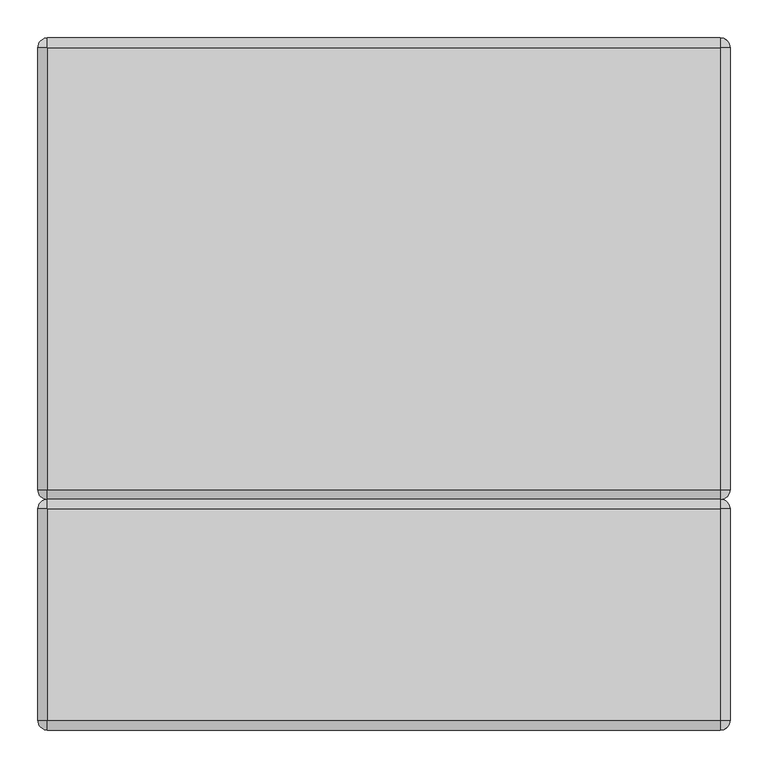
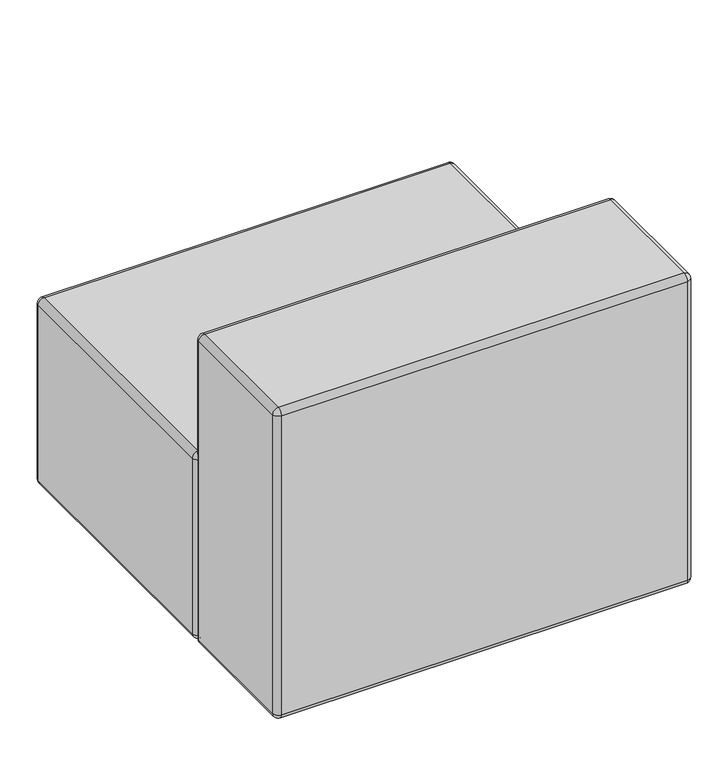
"""IFC4 building model written with IfcOpenShell, lengths in millimetres: furniture geometry, KFI Studios - Conversa : 24”x36” Seat with Back."""

from ifc_helpers import new_model, si_unit, point, frame, origin, place, context, project, spatial, polyline, circle_curve, ellipse_curve, trimmed, source, transform, mapped, element, save
from ifc_brep_helpers import plane_surface, cylinder_surface, revolved_surface, advanced_brep


def furniture_0edc51ff(model_context):
    return source(origin(), model_context, "Body", "AdvancedBrep", [
        advanced_brep(
        [(373.3895895, -517.525, 25.4), (356.8604105, -517.525, 25.4), (365.125, -517.525, 25.4), (373.3895895, -517.525, 14.2843611), (356.8604105, -517.525, 14.2843611), (371.7876354, -517.525, 14.2843611), (358.4623646, -517.525, 14.2843611), (371.7876354, -517.525, 12.7064551), (358.4623646, -517.525, 12.7064551), (373.3890671, -517.525, 12.7064551), (356.8609329, -517.525, 12.7064551), (382.5741215, -517.525, 3.1950529), (347.6758785, -517.525, 3.1950529), (382.5741215, -517.525, 0.0), (347.6758785, -517.525, 0.0), (365.125, -517.525, 0.0)],
        [
            (0, 1, circle_curve(frame((365.125, -517.525, 25.4), z_axis=(0.0, 0.0, 1.0), x_axis=(-1.0, 0.0, 0.0)), 8.2645895)),
            (1, 2),
            (2, 0),
            (1, 0, circle_curve(frame((365.125, -517.525, 25.4), z_axis=(0.0, 0.0, 1.0), x_axis=(-1.0, 0.0, 0.0)), 8.2645895)),
            (3, 4, circle_curve(frame((365.125, -517.525, 14.2843611), z_axis=(0.0, 0.0, 1.0), x_axis=(-1.0, 0.0, 0.0)), 8.2645895)),
            (4, 1),
            (0, 3),
            (4, 3, circle_curve(frame((365.125, -517.525, 14.2843611), z_axis=(0.0, 0.0, 1.0), x_axis=(-1.0, 0.0, 0.0)), 8.2645895)),
            (5, 6, circle_curve(frame((365.125, -517.525, 14.2843611), z_axis=(0.0, 0.0, 1.0), x_axis=(-1.0, 0.0, 0.0)), 6.6626354)),
            (6, 4),
            (3, 5),
            (6, 5, circle_curve(frame((365.125, -517.525, 14.2843611), z_axis=(0.0, 0.0, 1.0), x_axis=(-1.0, 0.0, 0.0)), 6.6626354)),
            (7, 8, circle_curve(frame((365.125, -517.525, 12.7064551), z_axis=(0.0, 0.0, 1.0), x_axis=(-1.0, 0.0, 0.0)), 6.6626354)),
            (8, 6),
            (5, 7),
            (8, 7, circle_curve(frame((365.125, -517.525, 12.7064551), z_axis=(0.0, 0.0, 1.0), x_axis=(-1.0, 0.0, 0.0)), 6.6626354)),
            (9, 10, circle_curve(frame((365.125, -517.525, 12.7064551), z_axis=(0.0, 0.0, 1.0), x_axis=(-1.0, 0.0, 0.0)), 8.2640671)),
            (10, 8),
            (7, 9),
            (10, 9, circle_curve(frame((365.125, -517.525, 12.7064551), z_axis=(0.0, 0.0, 1.0), x_axis=(-1.0, 0.0, 0.0)), 8.2640671)),
            (11, 12, circle_curve(frame((365.125, -517.525, 3.1950529), z_axis=(0.0, 0.0, 1.0), x_axis=(-1.0, 0.0, 0.0)), 17.4491215)),
            (12, 10),
            (9, 11),
            (12, 11, circle_curve(frame((365.125, -517.525, 3.1950529), z_axis=(0.0, 0.0, 1.0), x_axis=(-1.0, 0.0, 0.0)), 17.4491215)),
            (13, 14, circle_curve(frame((365.125, -517.525, 0.0), z_axis=(0.0, 0.0, 1.0), x_axis=(-1.0, 0.0, 0.0)), 17.4491215)),
            (14, 12),
            (11, 13),
            (14, 13, circle_curve(frame((365.125, -517.525, 0.0), z_axis=(0.0, 0.0, 1.0), x_axis=(-1.0, 0.0, 0.0)), 17.4491215)),
            (15, 14),
            (13, 15),
        ],
        [
            plane_surface(frame((365.125, -517.525, 25.4), z_axis=(0.0, 0.0, 1.0), x_axis=(-1.0, 0.0, 0.0))),
            cylinder_surface(frame((365.125, -517.525, 33.820929), z_axis=(0.0, 0.0, -1.0), x_axis=(-1.0, 0.0, 0.0)), 8.2645895),
            plane_surface(frame((365.125, -517.525, 14.2843611), z_axis=(0.0, 0.0, -1.0), x_axis=(-1.0, 0.0, 0.0))),
            cylinder_surface(frame((365.125, -517.525, 33.820929), z_axis=(0.0, 0.0, -1.0), x_axis=(-1.0, 0.0, 0.0)), 6.6626354),
            plane_surface(frame((365.125, -517.525, 12.7064551), z_axis=(0.0, 0.0, 1.0), x_axis=(-1.0, 0.0, 0.0))),
            revolved_surface(polyline([(356.8609329, -517.525, 12.7064551), (347.6758785, -517.525, 3.1950529)]), (365.125, -517.525, 33.820929), (0.0, 0.0, -1.0)),
            cylinder_surface(frame((365.125, -517.525, 33.820929), z_axis=(0.0, 0.0, -1.0), x_axis=(-1.0, 0.0, 0.0)), 17.4491215),
            plane_surface(frame((365.125, -517.525, 0.0), z_axis=(0.0, 0.0, -1.0), x_axis=(-1.0, 0.0, 0.0))),
        ],
        [
            (0, [[1, 2, 3]]),
            (0, [[4, -3, -2]]),
            (1, [[5, 6, -1, 7]]),
            (1, [[8, -7, -4, -6]]),
            (2, [[9, 10, -5, 11]]),
            (2, [[12, -11, -8, -10]]),
            (3, [[13, 14, -9, 15]]),
            (3, [[16, -15, -12, -14]]),
            (4, [[17, 18, -13, 19]]),
            (4, [[20, -19, -16, -18]]),
            (5, [[21, 22, -17, 23]]),
            (5, [[24, -23, -20, -22]]),
            (6, [[25, 26, -21, 27]]),
            (6, [[28, -27, -24, -26]]),
            (7, [[29, -25, 30]]),
            (7, [[-30, -28, -29]]),
        ],
    ),
        advanced_brep(
        [(-356.8604105, -517.525, 25.4), (-373.3895895, -517.525, 25.4), (-365.125, -517.525, 25.4), (-356.8604105, -517.525, 14.2843611), (-373.3895895, -517.525, 14.2843611), (-358.4623646, -517.525, 14.2843611), (-371.7876354, -517.525, 14.2843611), (-358.4623646, -517.525, 12.7064551), (-371.7876354, -517.525, 12.7064551), (-356.8609329, -517.525, 12.7064551), (-373.3890671, -517.525, 12.7064551), (-347.6758785, -517.525, 3.1950529), (-382.5741215, -517.525, 3.1950529), (-347.6758785, -517.525, 0.0), (-382.5741215, -517.525, 0.0), (-365.125, -517.525, 0.0)],
        [
            (0, 1, circle_curve(frame((-365.125, -517.525, 25.4), z_axis=(0.0, 0.0, 1.0), x_axis=(-1.0, 0.0, 0.0)), 8.2645895)),
            (1, 2),
            (2, 0),
            (1, 0, circle_curve(frame((-365.125, -517.525, 25.4), z_axis=(0.0, 0.0, 1.0), x_axis=(-1.0, 0.0, 0.0)), 8.2645895)),
            (3, 4, circle_curve(frame((-365.125, -517.525, 14.2843611), z_axis=(0.0, 0.0, 1.0), x_axis=(-1.0, 0.0, 0.0)), 8.2645895)),
            (4, 1),
            (0, 3),
            (4, 3, circle_curve(frame((-365.125, -517.525, 14.2843611), z_axis=(0.0, 0.0, 1.0), x_axis=(-1.0, 0.0, 0.0)), 8.2645895)),
            (5, 6, circle_curve(frame((-365.125, -517.525, 14.2843611), z_axis=(0.0, 0.0, 1.0), x_axis=(-1.0, 0.0, 0.0)), 6.6626354)),
            (6, 4),
            (3, 5),
            (6, 5, circle_curve(frame((-365.125, -517.525, 14.2843611), z_axis=(0.0, 0.0, 1.0), x_axis=(-1.0, 0.0, 0.0)), 6.6626354)),
            (7, 8, circle_curve(frame((-365.125, -517.525, 12.7064551), z_axis=(0.0, 0.0, 1.0), x_axis=(-1.0, 0.0, 0.0)), 6.6626354)),
            (8, 6),
            (5, 7),
            (8, 7, circle_curve(frame((-365.125, -517.525, 12.7064551), z_axis=(0.0, 0.0, 1.0), x_axis=(-1.0, 0.0, 0.0)), 6.6626354)),
            (9, 10, circle_curve(frame((-365.125, -517.525, 12.7064551), z_axis=(0.0, 0.0, 1.0), x_axis=(-1.0, 0.0, 0.0)), 8.2640671)),
            (10, 8),
            (7, 9),
            (10, 9, circle_curve(frame((-365.125, -517.525, 12.7064551), z_axis=(0.0, 0.0, 1.0), x_axis=(-1.0, 0.0, 0.0)), 8.2640671)),
            (11, 12, circle_curve(frame((-365.125, -517.525, 3.1950529), z_axis=(0.0, 0.0, 1.0), x_axis=(-1.0, 0.0, 0.0)), 17.4491215)),
            (12, 10),
            (9, 11),
            (12, 11, circle_curve(frame((-365.125, -517.525, 3.1950529), z_axis=(0.0, 0.0, 1.0), x_axis=(-1.0, 0.0, 0.0)), 17.4491215)),
            (13, 14, circle_curve(frame((-365.125, -517.525, 0.0), z_axis=(0.0, 0.0, 1.0), x_axis=(-1.0, 0.0, 0.0)), 17.4491215)),
            (14, 12),
            (11, 13),
            (14, 13, circle_curve(frame((-365.125, -517.525, 0.0), z_axis=(0.0, 0.0, 1.0), x_axis=(-1.0, 0.0, 0.0)), 17.4491215)),
            (15, 14),
            (13, 15),
        ],
        [
            plane_surface(frame((-365.125, -517.525, 25.4), z_axis=(0.0, 0.0, 1.0), x_axis=(-1.0, 0.0, 0.0))),
            cylinder_surface(frame((-365.125, -517.525, 33.820929), z_axis=(0.0, 0.0, -1.0), x_axis=(-1.0, 0.0, 0.0)), 8.2645895),
            plane_surface(frame((-365.125, -517.525, 14.2843611), z_axis=(0.0, 0.0, -1.0), x_axis=(-1.0, 0.0, 0.0))),
            cylinder_surface(frame((-365.125, -517.525, 33.820929), z_axis=(0.0, 0.0, -1.0), x_axis=(-1.0, 0.0, 0.0)), 6.6626354),
            plane_surface(frame((-365.125, -517.525, 12.7064551), z_axis=(0.0, 0.0, 1.0), x_axis=(-1.0, 0.0, 0.0))),
            revolved_surface(polyline([(-373.3890671, -517.525, 12.7064551), (-382.5741215, -517.525, 3.1950529)]), (-365.125, -517.525, 33.820929), (0.0, 0.0, -1.0)),
            cylinder_surface(frame((-365.125, -517.525, 33.820929), z_axis=(0.0, 0.0, -1.0), x_axis=(-1.0, 0.0, 0.0)), 17.4491215),
            plane_surface(frame((-365.125, -517.525, 0.0), z_axis=(0.0, 0.0, -1.0), x_axis=(-1.0, 0.0, 0.0))),
        ],
        [
            (0, [[1, 2, 3]]),
            (0, [[4, -3, -2]]),
            (1, [[5, 6, -1, 7]]),
            (1, [[8, -7, -4, -6]]),
            (2, [[9, 10, -5, 11]]),
            (2, [[12, -11, -8, -10]]),
            (3, [[13, 14, -9, 15]]),
            (3, [[16, -15, -12, -14]]),
            (4, [[17, 18, -13, 19]]),
            (4, [[20, -19, -16, -18]]),
            (5, [[21, 22, -17, 23]]),
            (5, [[24, -23, -20, -22]]),
            (6, [[25, 26, -21, 27]]),
            (6, [[28, -27, -24, -26]]),
            (7, [[29, -25, 30]]),
            (7, [[-30, -28, -29]]),
        ],
    ),
        advanced_brep(
        [(-457.2, -596.9, 730.25), (-444.5, -596.9, 742.95), (-444.5, -317.5, 742.95), (-457.2, -317.5, 730.25), (-457.2, -317.5, 38.1), (-457.2, -596.9, 38.1), (-444.5, -317.5, 25.4), (-444.5, -596.9, 25.4), (-444.5, -304.8, 730.25), (444.5, -317.5, 742.95), (444.5, -304.8, 730.25), (444.5, -304.8, 38.1), (-444.5, -304.8, 38.1), (444.5, -317.5, 25.4), (444.5, -596.9, 742.95), (444.5, -596.9, 25.4), (444.5, -609.6, 730.25), (-444.5, -609.6, 730.25), (-444.5, -609.6, 38.1), (444.5, -609.6, 38.1), (457.2, -317.5, 730.25), (457.2, -596.9, 730.25), (457.2, -596.9, 38.1), (457.2, -317.5, 38.1)],
        [
            (0, 1, circle_curve(frame((-444.5, -596.9, 730.25), z_axis=(0.0, 1.0, 0.0), x_axis=(-1.0, 0.0, 0.0)), 12.7)),
            (1, 2),
            (2, 3, circle_curve(frame((-444.5, -317.5, 730.25), z_axis=(0.0, -1.0, 0.0), x_axis=(-1.0, 0.0, 0.0)), 12.7)),
            (3, 0),
            (3, 4),
            (4, 5),
            (5, 0),
            (4, 6, circle_curve(frame((-444.5, -317.5, 38.1), z_axis=(0.0, -1.0, 0.0), x_axis=(-1.0, 0.0, 0.0)), 12.7)),
            (6, 7),
            (7, 5, circle_curve(frame((-444.5, -596.9, 38.1), z_axis=(0.0, 1.0, 0.0), x_axis=(-1.0, 0.0, 0.0)), 12.7)),
            (8, 2, circle_curve(frame((-444.5, -317.5, 730.25), z_axis=(1.0, 0.0, 0.0), x_axis=(0.0, -1.0, 0.0)), 12.7)),
            (2, 9),
            (9, 10, circle_curve(frame((444.5, -317.5, 730.25), z_axis=(-1.0, 0.0, 0.0), x_axis=(0.0, -1.0, 0.0)), 12.7)),
            (10, 8),
            (10, 11),
            (11, 12),
            (12, 8),
            (11, 13, circle_curve(frame((444.5, -317.5, 38.1), z_axis=(-1.0, 0.0, 0.0), x_axis=(0.0, -1.0, 0.0)), 12.7)),
            (13, 6),
            (6, 12, circle_curve(frame((-444.5, -317.5, 38.1), z_axis=(1.0, 0.0, 0.0), x_axis=(0.0, -1.0, 0.0)), 12.7)),
            (1, 14),
            (14, 9),
            (13, 15),
            (15, 7),
            (16, 14, circle_curve(frame((444.5, -596.9, 730.25), z_axis=(-1.0, 0.0, 0.0), x_axis=(0.0, -1.0, 0.0)), 12.7)),
            (1, 17, circle_curve(frame((-444.5, -596.9, 730.25), z_axis=(1.0, 0.0, 0.0), x_axis=(0.0, -1.0, 0.0)), 12.7)),
            (17, 16),
            (17, 18),
            (18, 19),
            (19, 16),
            (18, 7, circle_curve(frame((-444.5, -596.9, 38.1), z_axis=(1.0, 0.0, 0.0), x_axis=(0.0, -1.0, 0.0)), 12.7)),
            (15, 19, circle_curve(frame((444.5, -596.9, 38.1), z_axis=(-1.0, 0.0, 0.0), x_axis=(0.0, -1.0, 0.0)), 12.7)),
            (20, 9, circle_curve(frame((444.5, -317.5, 730.25), z_axis=(0.0, -1.0, 0.0), x_axis=(-1.0, 0.0, 0.0)), 12.7)),
            (14, 21, circle_curve(frame((444.5, -596.9, 730.25), z_axis=(0.0, 1.0, 0.0), x_axis=(-1.0, 0.0, 0.0)), 12.7)),
            (21, 20),
            (21, 22),
            (22, 23),
            (23, 20),
            (22, 15, circle_curve(frame((444.5, -596.9, 38.1), z_axis=(0.0, 1.0, 0.0), x_axis=(-1.0, 0.0, 0.0)), 12.7)),
            (13, 23, circle_curve(frame((444.5, -317.5, 38.1), z_axis=(0.0, -1.0, 0.0), x_axis=(-1.0, 0.0, 0.0)), 12.7)),
            (17, 0, circle_curve(frame((-444.5, -596.9, 730.25), z_axis=(0.0, 0.0, -1.0), x_axis=(-1.0, 0.0, 0.0)), 12.7)),
            (5, 18, circle_curve(frame((-444.5, -596.9, 38.1), z_axis=(0.0, 0.0, 1.0), x_axis=(-1.0, 0.0, 0.0)), 12.7)),
            (12, 4, circle_curve(frame((-444.5, -317.5, 38.1), z_axis=(0.0, 0.0, 1.0), x_axis=(-1.0, 0.0, 0.0)), 12.7)),
            (3, 8, circle_curve(frame((-444.5, -317.5, 730.25), z_axis=(0.0, 0.0, -1.0), x_axis=(-1.0, 0.0, 0.0)), 12.7)),
            (10, 20, circle_curve(frame((444.5, -317.5, 730.25), z_axis=(0.0, 0.0, -1.0), x_axis=(1.0, 0.0, 0.0)), 12.7)),
            (23, 11, circle_curve(frame((444.5, -317.5, 38.1), z_axis=(0.0, 0.0, 1.0), x_axis=(1.0, 0.0, 0.0)), 12.7)),
            (19, 22, circle_curve(frame((444.5, -596.9, 38.1), z_axis=(0.0, 0.0, 1.0), x_axis=(1.0, 0.0, 0.0)), 12.7)),
            (21, 16, circle_curve(frame((444.5, -596.9, 730.25), z_axis=(0.0, 0.0, -1.0), x_axis=(1.0, 0.0, 0.0)), 12.7)),
        ],
        [
            cylinder_surface(frame((-444.5, -317.5, 730.25), z_axis=(0.0, 1.0, 0.0), x_axis=(-1.0, 0.0, 0.0)), 12.7),
            plane_surface(frame((-457.2, -317.5, 730.25), z_axis=(-1.0, 0.0, 0.0), x_axis=(0.0, -1.0, 0.0))),
            cylinder_surface(frame((-444.5, -317.5, 38.1), z_axis=(0.0, 1.0, 0.0), x_axis=(-1.0, 0.0, 0.0)), 12.7),
            cylinder_surface(frame((-444.5, -317.5, 730.25), z_axis=(-1.0, 0.0, 0.0), x_axis=(0.0, -1.0, 0.0)), 12.7),
            plane_surface(frame((-444.5, -304.8, 38.1), z_axis=(0.0, 1.0, 0.0), x_axis=(1.0, 0.0, 0.0))),
            cylinder_surface(frame((-444.5, -317.5, 38.1), z_axis=(-1.0, 0.0, 0.0), x_axis=(0.0, -1.0, 0.0)), 12.7),
            plane_surface(frame((-444.5, -596.9, 742.95), z_axis=(0.0, 0.0, 1.0), x_axis=(-1.0, 0.0, 0.0))),
            plane_surface(frame((-444.5, -596.9, 25.4), z_axis=(0.0, 0.0, -1.0), x_axis=(1.0, 0.0, 0.0))),
            cylinder_surface(frame((-444.5, -596.9, 730.25), z_axis=(-1.0, 0.0, 0.0), x_axis=(0.0, -1.0, 0.0)), 12.7),
            plane_surface(frame((-444.5, -609.6, 730.25), z_axis=(0.0, -1.0, 0.0), x_axis=(1.0, 0.0, 0.0))),
            cylinder_surface(frame((-444.5, -596.9, 38.1), z_axis=(-1.0, 0.0, 0.0), x_axis=(0.0, -1.0, 0.0)), 12.7),
            cylinder_surface(frame((444.5, -317.5, 730.25), z_axis=(0.0, 1.0, 0.0), x_axis=(-1.0, 0.0, 0.0)), 12.7),
            plane_surface(frame((457.2, -317.5, 38.1), z_axis=(1.0, 0.0, 0.0), x_axis=(0.0, -1.0, 0.0))),
            cylinder_surface(frame((444.5, -317.5, 38.1), z_axis=(0.0, 1.0, 0.0), x_axis=(-1.0, 0.0, 0.0)), 12.7),
            cylinder_surface(frame((-444.5, -596.9, 742.95), z_axis=(0.0, 0.0, 1.0), x_axis=(-1.0, 0.0, 0.0)), 12.7),
            revolved_surface(trimmed(ellipse_curve(frame((-444.5, -596.9, 38.1), z_axis=(0.0, 1.0, 0.0), x_axis=(0.0, 0.0, 1.0)), 12.7, 12.7), [point((-444.5, -596.9, 25.4))], [point((-457.2, -596.9, 38.1))], True, "CARTESIAN"), (-444.5, -596.9, 742.95), (0.0, 0.0, 1.0)),
            revolved_surface(trimmed(ellipse_curve(frame((-444.5, -596.9, 730.25), z_axis=(0.0, 1.0, 0.0), x_axis=(0.0, 0.0, 1.0)), 12.7, 12.7), [point((-457.2, -596.9, 730.25))], [point((-444.5, -596.9, 742.95))], True, "CARTESIAN"), (-444.5, -596.9, 742.95), (0.0, 0.0, 1.0)),
            cylinder_surface(frame((-444.5, -317.5, 592.6689642), z_axis=(0.0, 0.0, -1.0), x_axis=(-1.0, 0.0, 0.0)), 12.7),
            revolved_surface(trimmed(ellipse_curve(frame((-444.5, -317.5, 730.25), z_axis=(0.0, -1.0, 0.0), x_axis=(1.0, 0.0, 0.0)), 12.7, 12.7), [point((-444.5, -317.5, 742.95))], [point((-457.2, -317.5, 730.25))], True, "CARTESIAN"), (-444.5, -317.5, 592.6689642), (0.0, 0.0, -1.0)),
            revolved_surface(trimmed(ellipse_curve(frame((-444.5, -317.5, 38.1), z_axis=(0.0, -1.0, 0.0), x_axis=(1.0, 0.0, 0.0)), 12.7, 12.7), [point((-457.2, -317.5, 38.1))], [point((-444.5, -317.5, 25.4))], True, "CARTESIAN"), (-444.5, -317.5, 592.6689642), (0.0, 0.0, -1.0)),
            cylinder_surface(frame((444.5, -317.5, 742.95), z_axis=(0.0, 0.0, 1.0), x_axis=(1.0, 0.0, 0.0)), 12.7),
            revolved_surface(trimmed(ellipse_curve(frame((444.5, -317.5, 38.1), z_axis=(0.0, -1.0, 0.0), x_axis=(1.0, 0.0, 0.0)), 12.7, 12.7), [point((444.5, -317.5, 25.4))], [point((457.2, -317.5, 38.1))], True, "CARTESIAN"), (444.5, -317.5, 742.95), (0.0, 0.0, 1.0)),
            revolved_surface(trimmed(ellipse_curve(frame((444.5, -317.5, 730.25), z_axis=(0.0, -1.0, 0.0), x_axis=(1.0, 0.0, 0.0)), 12.7, 12.7), [point((457.2, -317.5, 730.25))], [point((444.5, -317.5, 742.95))], True, "CARTESIAN"), (444.5, -317.5, 742.95), (0.0, 0.0, 1.0)),
            cylinder_surface(frame((444.5, -596.9, 592.6689642), z_axis=(0.0, 0.0, -1.0), x_axis=(1.0, 0.0, 0.0)), 12.7),
            revolved_surface(trimmed(ellipse_curve(frame((444.5, -596.9, 730.25), z_axis=(0.0, 1.0, 0.0), x_axis=(0.0, 0.0, 1.0)), 12.7, 12.7), [point((444.5, -596.9, 742.95))], [point((457.2, -596.9, 730.25))], True, "CARTESIAN"), (444.5, -596.9, 592.6689642), (0.0, 0.0, -1.0)),
            revolved_surface(trimmed(ellipse_curve(frame((444.5, -596.9, 38.1), z_axis=(0.0, 1.0, 0.0), x_axis=(0.0, 0.0, 1.0)), 12.7, 12.7), [point((457.2, -596.9, 38.1))], [point((444.5, -596.9, 25.4))], True, "CARTESIAN"), (444.5, -596.9, 592.6689642), (0.0, 0.0, -1.0)),
        ],
        [
            (0, [[1, 2, 3, 4]]),
            (1, [[5, 6, 7, -4]]),
            (2, [[8, 9, 10, -6]]),
            (3, [[11, 12, 13, 14]]),
            (4, [[15, 16, 17, -14]]),
            (5, [[18, 19, 20, -16]]),
            (6, [[21, 22, -12, -2]]),
            (7, [[-19, 23, 24, -9]]),
            (8, [[25, -21, 26, 27]]),
            (9, [[28, 29, 30, -27]]),
            (10, [[31, -24, 32, -29]]),
            (11, [[33, -22, 34, 35]]),
            (12, [[36, 37, 38, -35]]),
            (13, [[39, -23, 40, -37]]),
            (14, [[-28, 41, -7, 42]]),
            (15, [[-10, -31, -42]]),
            (16, [[-26, -1, -41]]),
            (17, [[-17, 43, -5, 44]]),
            (18, [[-3, -11, -44]]),
            (19, [[-20, -8, -43]]),
            (20, [[-15, 45, -38, 46]]),
            (21, [[-40, -18, -46]]),
            (22, [[-13, -33, -45]]),
            (23, [[-30, 47, -36, 48]]),
            (24, [[-34, -25, -48]]),
            (25, [[-32, -39, -47]]),
        ],
    ),
        advanced_brep(
        [(373.3895895, -212.725, 25.4), (356.8604105, -212.725, 25.4), (365.125, -212.725, 25.4), (373.3895895, -212.725, 14.2843611), (356.8604105, -212.725, 14.2843611), (371.7876354, -212.725, 14.2843611), (358.4623646, -212.725, 14.2843611), (371.7876354, -212.725, 12.7064551), (358.4623646, -212.725, 12.7064551), (373.3890671, -212.725, 12.7064551), (356.8609329, -212.725, 12.7064551), (382.5741215, -212.725, 3.1950529), (347.6758785, -212.725, 3.1950529), (382.5741215, -212.725, 0.0), (347.6758785, -212.725, 0.0), (365.125, -212.725, 0.0)],
        [
            (0, 1, circle_curve(frame((365.125, -212.725, 25.4), z_axis=(0.0, 0.0, 1.0), x_axis=(-1.0, 0.0, 0.0)), 8.2645895)),
            (1, 2),
            (2, 0),
            (1, 0, circle_curve(frame((365.125, -212.725, 25.4), z_axis=(0.0, 0.0, 1.0), x_axis=(-1.0, 0.0, 0.0)), 8.2645895)),
            (3, 4, circle_curve(frame((365.125, -212.725, 14.2843611), z_axis=(0.0, 0.0, 1.0), x_axis=(-1.0, 0.0, 0.0)), 8.2645895)),
            (4, 1),
            (0, 3),
            (4, 3, circle_curve(frame((365.125, -212.725, 14.2843611), z_axis=(0.0, 0.0, 1.0), x_axis=(-1.0, 0.0, 0.0)), 8.2645895)),
            (5, 6, circle_curve(frame((365.125, -212.725, 14.2843611), z_axis=(0.0, 0.0, 1.0), x_axis=(-1.0, 0.0, 0.0)), 6.6626354)),
            (6, 4),
            (3, 5),
            (6, 5, circle_curve(frame((365.125, -212.725, 14.2843611), z_axis=(0.0, 0.0, 1.0), x_axis=(-1.0, 0.0, 0.0)), 6.6626354)),
            (7, 8, circle_curve(frame((365.125, -212.725, 12.7064551), z_axis=(0.0, 0.0, 1.0), x_axis=(-1.0, 0.0, 0.0)), 6.6626354)),
            (8, 6),
            (5, 7),
            (8, 7, circle_curve(frame((365.125, -212.725, 12.7064551), z_axis=(0.0, 0.0, 1.0), x_axis=(-1.0, 0.0, 0.0)), 6.6626354)),
            (9, 10, circle_curve(frame((365.125, -212.725, 12.7064551), z_axis=(0.0, 0.0, 1.0), x_axis=(-1.0, 0.0, 0.0)), 8.2640671)),
            (10, 8),
            (7, 9),
            (10, 9, circle_curve(frame((365.125, -212.725, 12.7064551), z_axis=(0.0, 0.0, 1.0), x_axis=(-1.0, 0.0, 0.0)), 8.2640671)),
            (11, 12, circle_curve(frame((365.125, -212.725, 3.1950529), z_axis=(0.0, 0.0, 1.0), x_axis=(-1.0, 0.0, 0.0)), 17.4491215)),
            (12, 10),
            (9, 11),
            (12, 11, circle_curve(frame((365.125, -212.725, 3.1950529), z_axis=(0.0, 0.0, 1.0), x_axis=(-1.0, 0.0, 0.0)), 17.4491215)),
            (13, 14, circle_curve(frame((365.125, -212.725, 0.0), z_axis=(0.0, 0.0, 1.0), x_axis=(-1.0, 0.0, 0.0)), 17.4491215)),
            (14, 12),
            (11, 13),
            (14, 13, circle_curve(frame((365.125, -212.725, 0.0), z_axis=(0.0, 0.0, 1.0), x_axis=(-1.0, 0.0, 0.0)), 17.4491215)),
            (15, 14),
            (13, 15),
        ],
        [
            plane_surface(frame((365.125, -212.725, 25.4), z_axis=(0.0, 0.0, 1.0), x_axis=(-1.0, 0.0, 0.0))),
            cylinder_surface(frame((365.125, -212.725, 33.820929), z_axis=(0.0, 0.0, -1.0), x_axis=(-1.0, 0.0, 0.0)), 8.2645895),
            plane_surface(frame((365.125, -212.725, 14.2843611), z_axis=(0.0, 0.0, -1.0), x_axis=(-1.0, 0.0, 0.0))),
            cylinder_surface(frame((365.125, -212.725, 33.820929), z_axis=(0.0, 0.0, -1.0), x_axis=(-1.0, 0.0, 0.0)), 6.6626354),
            plane_surface(frame((365.125, -212.725, 12.7064551), z_axis=(0.0, 0.0, 1.0), x_axis=(-1.0, 0.0, 0.0))),
            revolved_surface(polyline([(356.8609329, -212.725, 12.7064551), (347.6758785, -212.725, 3.1950529)]), (365.125, -212.725, 33.820929), (0.0, 0.0, -1.0)),
            cylinder_surface(frame((365.125, -212.725, 33.820929), z_axis=(0.0, 0.0, -1.0), x_axis=(-1.0, 0.0, 0.0)), 17.4491215),
            plane_surface(frame((365.125, -212.725, 0.0), z_axis=(0.0, 0.0, -1.0), x_axis=(-1.0, 0.0, 0.0))),
        ],
        [
            (0, [[1, 2, 3]]),
            (0, [[4, -3, -2]]),
            (1, [[5, 6, -1, 7]]),
            (1, [[8, -7, -4, -6]]),
            (2, [[9, 10, -5, 11]]),
            (2, [[12, -11, -8, -10]]),
            (3, [[13, 14, -9, 15]]),
            (3, [[16, -15, -12, -14]]),
            (4, [[17, 18, -13, 19]]),
            (4, [[20, -19, -16, -18]]),
            (5, [[21, 22, -17, 23]]),
            (5, [[24, -23, -20, -22]]),
            (6, [[25, 26, -21, 27]]),
            (6, [[28, -27, -24, -26]]),
            (7, [[29, -25, 30]]),
            (7, [[-30, -28, -29]]),
        ],
    ),
        advanced_brep(
        [(-356.8604105, -212.725, 25.4), (-373.3895895, -212.725, 25.4), (-365.125, -212.725, 25.4), (-356.8604105, -212.725, 14.2843611), (-373.3895895, -212.725, 14.2843611), (-358.4623646, -212.725, 14.2843611), (-371.7876354, -212.725, 14.2843611), (-358.4623646, -212.725, 12.7064551), (-371.7876354, -212.725, 12.7064551), (-356.8609329, -212.725, 12.7064551), (-373.3890671, -212.725, 12.7064551), (-347.6758785, -212.725, 3.1950529), (-382.5741215, -212.725, 3.1950529), (-347.6758785, -212.725, 0.0), (-382.5741215, -212.725, 0.0), (-365.125, -212.725, 0.0)],
        [
            (0, 1, circle_curve(frame((-365.125, -212.725, 25.4), z_axis=(0.0, 0.0, 1.0), x_axis=(-1.0, 0.0, 0.0)), 8.2645895)),
            (1, 2),
            (2, 0),
            (1, 0, circle_curve(frame((-365.125, -212.725, 25.4), z_axis=(0.0, 0.0, 1.0), x_axis=(-1.0, 0.0, 0.0)), 8.2645895)),
            (3, 4, circle_curve(frame((-365.125, -212.725, 14.2843611), z_axis=(0.0, 0.0, 1.0), x_axis=(-1.0, 0.0, 0.0)), 8.2645895)),
            (4, 1),
            (0, 3),
            (4, 3, circle_curve(frame((-365.125, -212.725, 14.2843611), z_axis=(0.0, 0.0, 1.0), x_axis=(-1.0, 0.0, 0.0)), 8.2645895)),
            (5, 6, circle_curve(frame((-365.125, -212.725, 14.2843611), z_axis=(0.0, 0.0, 1.0), x_axis=(-1.0, 0.0, 0.0)), 6.6626354)),
            (6, 4),
            (3, 5),
            (6, 5, circle_curve(frame((-365.125, -212.725, 14.2843611), z_axis=(0.0, 0.0, 1.0), x_axis=(-1.0, 0.0, 0.0)), 6.6626354)),
            (7, 8, circle_curve(frame((-365.125, -212.725, 12.7064551), z_axis=(0.0, 0.0, 1.0), x_axis=(-1.0, 0.0, 0.0)), 6.6626354)),
            (8, 6),
            (5, 7),
            (8, 7, circle_curve(frame((-365.125, -212.725, 12.7064551), z_axis=(0.0, 0.0, 1.0), x_axis=(-1.0, 0.0, 0.0)), 6.6626354)),
            (9, 10, circle_curve(frame((-365.125, -212.725, 12.7064551), z_axis=(0.0, 0.0, 1.0), x_axis=(-1.0, 0.0, 0.0)), 8.2640671)),
            (10, 8),
            (7, 9),
            (10, 9, circle_curve(frame((-365.125, -212.725, 12.7064551), z_axis=(0.0, 0.0, 1.0), x_axis=(-1.0, 0.0, 0.0)), 8.2640671)),
            (11, 12, circle_curve(frame((-365.125, -212.725, 3.1950529), z_axis=(0.0, 0.0, 1.0), x_axis=(-1.0, 0.0, 0.0)), 17.4491215)),
            (12, 10),
            (9, 11),
            (12, 11, circle_curve(frame((-365.125, -212.725, 3.1950529), z_axis=(0.0, 0.0, 1.0), x_axis=(-1.0, 0.0, 0.0)), 17.4491215)),
            (13, 14, circle_curve(frame((-365.125, -212.725, 0.0), z_axis=(0.0, 0.0, 1.0), x_axis=(-1.0, 0.0, 0.0)), 17.4491215)),
            (14, 12),
            (11, 13),
            (14, 13, circle_curve(frame((-365.125, -212.725, 0.0), z_axis=(0.0, 0.0, 1.0), x_axis=(-1.0, 0.0, 0.0)), 17.4491215)),
            (15, 14),
            (13, 15),
        ],
        [
            plane_surface(frame((-365.125, -212.725, 25.4), z_axis=(0.0, 0.0, 1.0), x_axis=(-1.0, 0.0, 0.0))),
            cylinder_surface(frame((-365.125, -212.725, 33.820929), z_axis=(0.0, 0.0, -1.0), x_axis=(-1.0, 0.0, 0.0)), 8.2645895),
            plane_surface(frame((-365.125, -212.725, 14.2843611), z_axis=(0.0, 0.0, -1.0), x_axis=(-1.0, 0.0, 0.0))),
            cylinder_surface(frame((-365.125, -212.725, 33.820929), z_axis=(0.0, 0.0, -1.0), x_axis=(-1.0, 0.0, 0.0)), 6.6626354),
            plane_surface(frame((-365.125, -212.725, 12.7064551), z_axis=(0.0, 0.0, 1.0), x_axis=(-1.0, 0.0, 0.0))),
            revolved_surface(polyline([(-373.3890671, -212.725, 12.7064551), (-382.5741215, -212.725, 3.1950529)]), (-365.125, -212.725, 33.820929), (0.0, 0.0, -1.0)),
            cylinder_surface(frame((-365.125, -212.725, 33.820929), z_axis=(0.0, 0.0, -1.0), x_axis=(-1.0, 0.0, 0.0)), 17.4491215),
            plane_surface(frame((-365.125, -212.725, 0.0), z_axis=(0.0, 0.0, -1.0), x_axis=(-1.0, 0.0, 0.0))),
        ],
        [
            (0, [[1, 2, 3]]),
            (0, [[4, -3, -2]]),
            (1, [[5, 6, -1, 7]]),
            (1, [[8, -7, -4, -6]]),
            (2, [[9, 10, -5, 11]]),
            (2, [[12, -11, -8, -10]]),
            (3, [[13, 14, -9, 15]]),
            (3, [[16, -15, -12, -14]]),
            (4, [[17, 18, -13, 19]]),
            (4, [[20, -19, -16, -18]]),
            (5, [[21, 22, -17, 23]]),
            (5, [[24, -23, -20, -22]]),
            (6, [[25, 26, -21, 27]]),
            (6, [[28, -27, -24, -26]]),
            (7, [[29, -25, 30]]),
            (7, [[-30, -28, -29]]),
        ],
    ),
        advanced_brep(
        [(373.3895895, 212.725, 25.4), (365.125, 212.725, 25.4), (356.8604105, 212.725, 25.4), (373.3895895, 212.725, 14.2843611), (356.8604105, 212.725, 14.2843611), (371.7876354, 212.725, 14.2843611), (358.4623646, 212.725, 14.2843611), (371.7876354, 212.725, 12.7064551), (358.4623646, 212.725, 12.7064551), (373.3890671, 212.725, 12.7064551), (356.8609329, 212.725, 12.7064551), (382.5741215, 212.725, 3.1950529), (347.6758785, 212.725, 3.1950529), (382.5741215, 212.725, 0.0), (347.6758785, 212.725, 0.0), (365.125, 212.725, 0.0)],
        [
            (0, 1),
            (1, 2),
            (2, 0, circle_curve(frame((365.125, 212.725, 25.4), z_axis=(0.0, 0.0, 1.0), x_axis=(-1.0, 0.0, 0.0)), 8.2645895)),
            (0, 2, circle_curve(frame((365.125, 212.725, 25.4), z_axis=(0.0, 0.0, 1.0), x_axis=(-1.0, 0.0, 0.0)), 8.2645895)),
            (3, 0),
            (2, 4),
            (4, 3, circle_curve(frame((365.125, 212.725, 14.2843611), z_axis=(0.0, 0.0, 1.0), x_axis=(-1.0, 0.0, 0.0)), 8.2645895)),
            (3, 4, circle_curve(frame((365.125, 212.725, 14.2843611), z_axis=(0.0, 0.0, 1.0), x_axis=(-1.0, 0.0, 0.0)), 8.2645895)),
            (5, 3),
            (4, 6),
            (6, 5, circle_curve(frame((365.125, 212.725, 14.2843611), z_axis=(0.0, 0.0, 1.0), x_axis=(-1.0, 0.0, 0.0)), 6.6626354)),
            (5, 6, circle_curve(frame((365.125, 212.725, 14.2843611), z_axis=(0.0, 0.0, 1.0), x_axis=(-1.0, 0.0, 0.0)), 6.6626354)),
            (7, 5),
            (6, 8),
            (8, 7, circle_curve(frame((365.125, 212.725, 12.7064551), z_axis=(0.0, 0.0, 1.0), x_axis=(-1.0, 0.0, 0.0)), 6.6626354)),
            (7, 8, circle_curve(frame((365.125, 212.725, 12.7064551), z_axis=(0.0, 0.0, 1.0), x_axis=(-1.0, 0.0, 0.0)), 6.6626354)),
            (9, 7),
            (8, 10),
            (10, 9, circle_curve(frame((365.125, 212.725, 12.7064551), z_axis=(0.0, 0.0, 1.0), x_axis=(-1.0, 0.0, 0.0)), 8.2640671)),
            (9, 10, circle_curve(frame((365.125, 212.725, 12.7064551), z_axis=(0.0, 0.0, 1.0), x_axis=(-1.0, 0.0, 0.0)), 8.2640671)),
            (11, 9),
            (10, 12),
            (12, 11, circle_curve(frame((365.125, 212.725, 3.1950529), z_axis=(0.0, 0.0, 1.0), x_axis=(-1.0, 0.0, 0.0)), 17.4491215)),
            (11, 12, circle_curve(frame((365.125, 212.725, 3.1950529), z_axis=(0.0, 0.0, 1.0), x_axis=(-1.0, 0.0, 0.0)), 17.4491215)),
            (13, 11),
            (12, 14),
            (14, 13, circle_curve(frame((365.125, 212.725, 0.0), z_axis=(0.0, 0.0, 1.0), x_axis=(-1.0, 0.0, 0.0)), 17.4491215)),
            (13, 14, circle_curve(frame((365.125, 212.725, 0.0), z_axis=(0.0, 0.0, 1.0), x_axis=(-1.0, 0.0, 0.0)), 17.4491215)),
            (15, 13),
            (14, 15),
        ],
        [
            plane_surface(frame((365.125, 212.725, 25.4), z_axis=(0.0, 0.0, 1.0), x_axis=(-1.0, 0.0, 0.0))),
            cylinder_surface(frame((365.125, 212.725, 33.820929), z_axis=(0.0, 0.0, -1.0), x_axis=(-1.0, 0.0, 0.0)), 8.2645895),
            plane_surface(frame((365.125, 212.725, 14.2843611), z_axis=(0.0, 0.0, -1.0), x_axis=(-1.0, 0.0, 0.0))),
            cylinder_surface(frame((365.125, 212.725, 33.820929), z_axis=(0.0, 0.0, -1.0), x_axis=(-1.0, 0.0, 0.0)), 6.6626354),
            plane_surface(frame((365.125, 212.725, 12.7064551), z_axis=(0.0, 0.0, 1.0), x_axis=(-1.0, 0.0, 0.0))),
            revolved_surface(polyline([(356.8609329, 212.725, 12.7064551), (347.6758785, 212.725, 3.1950529)]), (365.125, 212.725, 33.820929), (0.0, 0.0, -1.0)),
            cylinder_surface(frame((365.125, 212.725, 33.820929), z_axis=(0.0, 0.0, -1.0), x_axis=(-1.0, 0.0, 0.0)), 17.4491215),
            plane_surface(frame((365.125, 212.725, 0.0), z_axis=(0.0, 0.0, -1.0), x_axis=(-1.0, 0.0, 0.0))),
        ],
        [
            (0, [[1, 2, 3]]),
            (0, [[-2, -1, 4]]),
            (1, [[5, -3, 6, 7]]),
            (1, [[-6, -4, -5, 8]]),
            (2, [[9, -7, 10, 11]]),
            (2, [[-10, -8, -9, 12]]),
            (3, [[13, -11, 14, 15]]),
            (3, [[-14, -12, -13, 16]]),
            (4, [[17, -15, 18, 19]]),
            (4, [[-18, -16, -17, 20]]),
            (5, [[21, -19, 22, 23]]),
            (5, [[-22, -20, -21, 24]]),
            (6, [[25, -23, 26, 27]]),
            (6, [[-26, -24, -25, 28]]),
            (7, [[29, -27, 30]]),
            (7, [[-30, -28, -29]]),
        ],
    ),
        advanced_brep(
        [(-356.8604105, 212.725, 25.4), (-365.125, 212.725, 25.4), (-373.3895895, 212.725, 25.4), (-356.8604105, 212.725, 14.2843611), (-373.3895895, 212.725, 14.2843611), (-358.4623646, 212.725, 14.2843611), (-371.7876354, 212.725, 14.2843611), (-358.4623646, 212.725, 12.7064551), (-371.7876354, 212.725, 12.7064551), (-356.8609329, 212.725, 12.7064551), (-373.3890671, 212.725, 12.7064551), (-347.6758785, 212.725, 3.1950529), (-382.5741215, 212.725, 3.1950529), (-347.6758785, 212.725, 0.0), (-382.5741215, 212.725, 0.0), (-365.125, 212.725, 0.0)],
        [
            (0, 1),
            (1, 2),
            (2, 0, circle_curve(frame((-365.125, 212.725, 25.4), z_axis=(0.0, 0.0, 1.0), x_axis=(-1.0, 0.0, 0.0)), 8.2645895)),
            (0, 2, circle_curve(frame((-365.125, 212.725, 25.4), z_axis=(0.0, 0.0, 1.0), x_axis=(-1.0, 0.0, 0.0)), 8.2645895)),
            (3, 0),
            (2, 4),
            (4, 3, circle_curve(frame((-365.125, 212.725, 14.2843611), z_axis=(0.0, 0.0, 1.0), x_axis=(-1.0, 0.0, 0.0)), 8.2645895)),
            (3, 4, circle_curve(frame((-365.125, 212.725, 14.2843611), z_axis=(0.0, 0.0, 1.0), x_axis=(-1.0, 0.0, 0.0)), 8.2645895)),
            (5, 3),
            (4, 6),
            (6, 5, circle_curve(frame((-365.125, 212.725, 14.2843611), z_axis=(0.0, 0.0, 1.0), x_axis=(-1.0, 0.0, 0.0)), 6.6626354)),
            (5, 6, circle_curve(frame((-365.125, 212.725, 14.2843611), z_axis=(0.0, 0.0, 1.0), x_axis=(-1.0, 0.0, 0.0)), 6.6626354)),
            (7, 5),
            (6, 8),
            (8, 7, circle_curve(frame((-365.125, 212.725, 12.7064551), z_axis=(0.0, 0.0, 1.0), x_axis=(-1.0, 0.0, 0.0)), 6.6626354)),
            (7, 8, circle_curve(frame((-365.125, 212.725, 12.7064551), z_axis=(0.0, 0.0, 1.0), x_axis=(-1.0, 0.0, 0.0)), 6.6626354)),
            (9, 7),
            (8, 10),
            (10, 9, circle_curve(frame((-365.125, 212.725, 12.7064551), z_axis=(0.0, 0.0, 1.0), x_axis=(-1.0, 0.0, 0.0)), 8.2640671)),
            (9, 10, circle_curve(frame((-365.125, 212.725, 12.7064551), z_axis=(0.0, 0.0, 1.0), x_axis=(-1.0, 0.0, 0.0)), 8.2640671)),
            (11, 9),
            (10, 12),
            (12, 11, circle_curve(frame((-365.125, 212.725, 3.1950529), z_axis=(0.0, 0.0, 1.0), x_axis=(-1.0, 0.0, 0.0)), 17.4491215)),
            (11, 12, circle_curve(frame((-365.125, 212.725, 3.1950529), z_axis=(0.0, 0.0, 1.0), x_axis=(-1.0, 0.0, 0.0)), 17.4491215)),
            (13, 11),
            (12, 14),
            (14, 13, circle_curve(frame((-365.125, 212.725, 0.0), z_axis=(0.0, 0.0, 1.0), x_axis=(-1.0, 0.0, 0.0)), 17.4491215)),
            (13, 14, circle_curve(frame((-365.125, 212.725, 0.0), z_axis=(0.0, 0.0, 1.0), x_axis=(-1.0, 0.0, 0.0)), 17.4491215)),
            (15, 13),
            (14, 15),
        ],
        [
            plane_surface(frame((-365.125, 212.725, 25.4), z_axis=(0.0, 0.0, 1.0), x_axis=(-1.0, 0.0, 0.0))),
            cylinder_surface(frame((-365.125, 212.725, 33.820929), z_axis=(0.0, 0.0, -1.0), x_axis=(-1.0, 0.0, 0.0)), 8.2645895),
            plane_surface(frame((-365.125, 212.725, 14.2843611), z_axis=(0.0, 0.0, -1.0), x_axis=(-1.0, 0.0, 0.0))),
            cylinder_surface(frame((-365.125, 212.725, 33.820929), z_axis=(0.0, 0.0, -1.0), x_axis=(-1.0, 0.0, 0.0)), 6.6626354),
            plane_surface(frame((-365.125, 212.725, 12.7064551), z_axis=(0.0, 0.0, 1.0), x_axis=(-1.0, 0.0, 0.0))),
            revolved_surface(polyline([(-373.3890671, 212.725, 12.7064551), (-382.5741215, 212.725, 3.1950529)]), (-365.125, 212.725, 33.820929), (0.0, 0.0, -1.0)),
            cylinder_surface(frame((-365.125, 212.725, 33.820929), z_axis=(0.0, 0.0, -1.0), x_axis=(-1.0, 0.0, 0.0)), 17.4491215),
            plane_surface(frame((-365.125, 212.725, 0.0), z_axis=(0.0, 0.0, -1.0), x_axis=(-1.0, 0.0, 0.0))),
        ],
        [
            (0, [[1, 2, 3]]),
            (0, [[-2, -1, 4]]),
            (1, [[5, -3, 6, 7]]),
            (1, [[-6, -4, -5, 8]]),
            (2, [[9, -7, 10, 11]]),
            (2, [[-10, -8, -9, 12]]),
            (3, [[13, -11, 14, 15]]),
            (3, [[-14, -12, -13, 16]]),
            (4, [[17, -15, 18, 19]]),
            (4, [[-18, -16, -17, 20]]),
            (5, [[21, -19, 22, 23]]),
            (5, [[-22, -20, -21, 24]]),
            (6, [[25, -23, 26, 27]]),
            (6, [[-26, -24, -25, 28]]),
            (7, [[29, -27, 30]]),
            (7, [[-30, -28, -29]]),
        ],
    ),
        advanced_brep(
        [(-457.2, -292.1, 444.5), (-444.5, -292.1, 457.2), (-444.5, 292.1, 457.2), (-457.2, 292.1, 444.5), (-457.2, 292.1, 38.1), (-457.2, -292.1, 38.1), (-444.5, 292.1, 25.4), (-444.5, -292.1, 25.4), (-444.5, 304.8, 444.5), (444.5, 292.1, 457.2), (444.5, 304.8, 444.5), (444.5, 304.8, 38.1), (-444.5, 304.8, 38.1), (444.5, 292.1, 25.4), (444.5, -292.1, 457.2), (444.5, -292.1, 25.4), (444.5, -304.8, 444.5), (-444.5, -304.8, 444.5), (-444.5, -304.8, 38.1), (444.5, -304.8, 38.1), (457.2, 292.1, 444.5), (457.2, -292.1, 444.5), (457.2, -292.1, 38.1), (457.2, 292.1, 38.1)],
        [
            (0, 1, circle_curve(frame((-444.5, -292.1, 444.5), z_axis=(0.0, 1.0, 0.0), x_axis=(-1.0, 0.0, 0.0)), 12.7)),
            (1, 2),
            (2, 3, circle_curve(frame((-444.5, 292.1, 444.5), z_axis=(0.0, -1.0, 0.0), x_axis=(-1.0, 0.0, 0.0)), 12.7)),
            (3, 0),
            (3, 4),
            (4, 5),
            (5, 0),
            (4, 6, circle_curve(frame((-444.5, 292.1, 38.1), z_axis=(0.0, -1.0, 0.0), x_axis=(-1.0, 0.0, 0.0)), 12.7)),
            (6, 7),
            (7, 5, circle_curve(frame((-444.5, -292.1, 38.1), z_axis=(0.0, 1.0, 0.0), x_axis=(-1.0, 0.0, 0.0)), 12.7)),
            (8, 2, circle_curve(frame((-444.5, 292.1, 444.5), z_axis=(1.0, 0.0, 0.0), x_axis=(0.0, -1.0, 0.0)), 12.7)),
            (2, 9),
            (9, 10, circle_curve(frame((444.5, 292.1, 444.5), z_axis=(-1.0, 0.0, 0.0), x_axis=(0.0, -1.0, 0.0)), 12.7)),
            (10, 8),
            (10, 11),
            (11, 12),
            (12, 8),
            (11, 13, circle_curve(frame((444.5, 292.1, 38.1), z_axis=(-1.0, 0.0, 0.0), x_axis=(0.0, -1.0, 0.0)), 12.7)),
            (13, 6),
            (6, 12, circle_curve(frame((-444.5, 292.1, 38.1), z_axis=(1.0, 0.0, 0.0), x_axis=(0.0, -1.0, 0.0)), 12.7)),
            (1, 14),
            (14, 9),
            (13, 15),
            (15, 7),
            (16, 14, circle_curve(frame((444.5, -292.1, 444.5), z_axis=(-1.0, 0.0, 0.0), x_axis=(0.0, -1.0, 0.0)), 12.7)),
            (1, 17, circle_curve(frame((-444.5, -292.1, 444.5), z_axis=(1.0, 0.0, 0.0), x_axis=(0.0, -1.0, 0.0)), 12.7)),
            (17, 16),
            (17, 18),
            (18, 19),
            (19, 16),
            (18, 7, circle_curve(frame((-444.5, -292.1, 38.1), z_axis=(1.0, 0.0, 0.0), x_axis=(0.0, -1.0, 0.0)), 12.7)),
            (15, 19, circle_curve(frame((444.5, -292.1, 38.1), z_axis=(-1.0, 0.0, 0.0), x_axis=(0.0, -1.0, 0.0)), 12.7)),
            (20, 9, circle_curve(frame((444.5, 292.1, 444.5), z_axis=(0.0, -1.0, 0.0), x_axis=(-1.0, 0.0, 0.0)), 12.7)),
            (14, 21, circle_curve(frame((444.5, -292.1, 444.5), z_axis=(0.0, 1.0, 0.0), x_axis=(-1.0, 0.0, 0.0)), 12.7)),
            (21, 20),
            (21, 22),
            (22, 23),
            (23, 20),
            (22, 15, circle_curve(frame((444.5, -292.1, 38.1), z_axis=(0.0, 1.0, 0.0), x_axis=(-1.0, 0.0, 0.0)), 12.7)),
            (13, 23, circle_curve(frame((444.5, 292.1, 38.1), z_axis=(0.0, -1.0, 0.0), x_axis=(-1.0, 0.0, 0.0)), 12.7)),
            (17, 0, circle_curve(frame((-444.5, -292.1, 444.5), z_axis=(0.0, 0.0, -1.0), x_axis=(-1.0, 0.0, 0.0)), 12.7)),
            (5, 18, circle_curve(frame((-444.5, -292.1, 38.1), z_axis=(0.0, 0.0, 1.0), x_axis=(-1.0, 0.0, 0.0)), 12.7)),
            (12, 4, circle_curve(frame((-444.5, 292.1, 38.1), z_axis=(0.0, 0.0, 1.0), x_axis=(-1.0, 0.0, 0.0)), 12.7)),
            (3, 8, circle_curve(frame((-444.5, 292.1, 444.5), z_axis=(0.0, 0.0, -1.0), x_axis=(-1.0, 0.0, 0.0)), 12.7)),
            (10, 20, circle_curve(frame((444.5, 292.1, 444.5), z_axis=(0.0, 0.0, -1.0), x_axis=(1.0, 0.0, 0.0)), 12.7)),
            (23, 11, circle_curve(frame((444.5, 292.1, 38.1), z_axis=(0.0, 0.0, 1.0), x_axis=(1.0, 0.0, 0.0)), 12.7)),
            (19, 22, circle_curve(frame((444.5, -292.1, 38.1), z_axis=(0.0, 0.0, 1.0), x_axis=(1.0, 0.0, 0.0)), 12.7)),
            (21, 16, circle_curve(frame((444.5, -292.1, 444.5), z_axis=(0.0, 0.0, -1.0), x_axis=(1.0, 0.0, 0.0)), 12.7)),
        ],
        [
            cylinder_surface(frame((-444.5, 292.1, 444.5), z_axis=(0.0, 1.0, 0.0), x_axis=(-1.0, 0.0, 0.0)), 12.7),
            plane_surface(frame((-457.2, 292.1, 444.5), z_axis=(-1.0, 0.0, 0.0), x_axis=(0.0, -1.0, 0.0))),
            cylinder_surface(frame((-444.5, 292.1, 38.1), z_axis=(0.0, 1.0, 0.0), x_axis=(-1.0, 0.0, 0.0)), 12.7),
            cylinder_surface(frame((-444.5, 292.1, 444.5), z_axis=(-1.0, 0.0, 0.0), x_axis=(0.0, -1.0, 0.0)), 12.7),
            plane_surface(frame((-444.5, 304.8, 38.1), z_axis=(0.0, 1.0, 0.0), x_axis=(1.0, 0.0, 0.0))),
            cylinder_surface(frame((-444.5, 292.1, 38.1), z_axis=(-1.0, 0.0, 0.0), x_axis=(0.0, -1.0, 0.0)), 12.7),
            plane_surface(frame((-444.5, -292.1, 457.2), z_axis=(0.0, 0.0, 1.0), x_axis=(-1.0, 0.0, 0.0))),
            plane_surface(frame((-444.5, -292.1, 25.4), z_axis=(0.0, 0.0, -1.0), x_axis=(1.0, 0.0, 0.0))),
            cylinder_surface(frame((-444.5, -292.1, 444.5), z_axis=(-1.0, 0.0, 0.0), x_axis=(0.0, -1.0, 0.0)), 12.7),
            plane_surface(frame((-444.5, -304.8, 444.5), z_axis=(0.0, -1.0, 0.0), x_axis=(1.0, 0.0, 0.0))),
            cylinder_surface(frame((-444.5, -292.1, 38.1), z_axis=(-1.0, 0.0, 0.0), x_axis=(0.0, -1.0, 0.0)), 12.7),
            cylinder_surface(frame((444.5, 292.1, 444.5), z_axis=(0.0, 1.0, 0.0), x_axis=(-1.0, 0.0, 0.0)), 12.7),
            plane_surface(frame((457.2, 292.1, 38.1), z_axis=(1.0, 0.0, 0.0), x_axis=(0.0, -1.0, 0.0))),
            cylinder_surface(frame((444.5, 292.1, 38.1), z_axis=(0.0, 1.0, 0.0), x_axis=(-1.0, 0.0, 0.0)), 12.7),
            cylinder_surface(frame((-444.5, -292.1, 457.2), z_axis=(0.0, 0.0, 1.0), x_axis=(-1.0, 0.0, 0.0)), 12.7),
            revolved_surface(trimmed(ellipse_curve(frame((-444.5, -292.1, 38.1), z_axis=(0.0, 1.0, 0.0), x_axis=(0.0, 0.0, 1.0)), 12.7, 12.7), [point((-444.5, -292.1, 25.4))], [point((-457.2, -292.1, 38.1))], True, "CARTESIAN"), (-444.5, -292.1, 457.2), (0.0, 0.0, 1.0)),
            revolved_surface(trimmed(ellipse_curve(frame((-444.5, -292.1, 444.5), z_axis=(0.0, 1.0, 0.0), x_axis=(0.0, 0.0, 1.0)), 12.7, 12.7), [point((-457.2, -292.1, 444.5))], [point((-444.5, -292.1, 457.2))], True, "CARTESIAN"), (-444.5, -292.1, 457.2), (0.0, 0.0, 1.0)),
            cylinder_surface(frame((-444.5, 292.1, 306.9189642), z_axis=(0.0, 0.0, -1.0), x_axis=(-1.0, 0.0, 0.0)), 12.7),
            revolved_surface(trimmed(ellipse_curve(frame((-444.5, 292.1, 444.5), z_axis=(0.0, -1.0, 0.0), x_axis=(1.0, 0.0, 0.0)), 12.7, 12.7), [point((-444.5, 292.1, 457.2))], [point((-457.2, 292.1, 444.5))], True, "CARTESIAN"), (-444.5, 292.1, 306.9189642), (0.0, 0.0, -1.0)),
            revolved_surface(trimmed(ellipse_curve(frame((-444.5, 292.1, 38.1), z_axis=(0.0, -1.0, 0.0), x_axis=(1.0, 0.0, 0.0)), 12.7, 12.7), [point((-457.2, 292.1, 38.1))], [point((-444.5, 292.1, 25.4))], True, "CARTESIAN"), (-444.5, 292.1, 306.9189642), (0.0, 0.0, -1.0)),
            cylinder_surface(frame((444.5, 292.1, 457.2), z_axis=(0.0, 0.0, 1.0), x_axis=(1.0, 0.0, 0.0)), 12.7),
            revolved_surface(trimmed(ellipse_curve(frame((444.5, 292.1, 38.1), z_axis=(0.0, -1.0, 0.0), x_axis=(1.0, 0.0, 0.0)), 12.7, 12.7), [point((444.5, 292.1, 25.4))], [point((457.2, 292.1, 38.1))], True, "CARTESIAN"), (444.5, 292.1, 457.2), (0.0, 0.0, 1.0)),
            revolved_surface(trimmed(ellipse_curve(frame((444.5, 292.1, 444.5), z_axis=(0.0, -1.0, 0.0), x_axis=(1.0, 0.0, 0.0)), 12.7, 12.7), [point((457.2, 292.1, 444.5))], [point((444.5, 292.1, 457.2))], True, "CARTESIAN"), (444.5, 292.1, 457.2), (0.0, 0.0, 1.0)),
            cylinder_surface(frame((444.5, -292.1, 306.9189642), z_axis=(0.0, 0.0, -1.0), x_axis=(1.0, 0.0, 0.0)), 12.7),
            revolved_surface(trimmed(ellipse_curve(frame((444.5, -292.1, 444.5), z_axis=(0.0, 1.0, 0.0), x_axis=(0.0, 0.0, 1.0)), 12.7, 12.7), [point((444.5, -292.1, 457.2))], [point((457.2, -292.1, 444.5))], True, "CARTESIAN"), (444.5, -292.1, 306.9189642), (0.0, 0.0, -1.0)),
            revolved_surface(trimmed(ellipse_curve(frame((444.5, -292.1, 38.1), z_axis=(0.0, 1.0, 0.0), x_axis=(0.0, 0.0, 1.0)), 12.7, 12.7), [point((457.2, -292.1, 38.1))], [point((444.5, -292.1, 25.4))], True, "CARTESIAN"), (444.5, -292.1, 306.9189642), (0.0, 0.0, -1.0)),
        ],
        [
            (0, [[1, 2, 3, 4]]),
            (1, [[5, 6, 7, -4]]),
            (2, [[8, 9, 10, -6]]),
            (3, [[11, 12, 13, 14]]),
            (4, [[15, 16, 17, -14]]),
            (5, [[18, 19, 20, -16]]),
            (6, [[21, 22, -12, -2]]),
            (7, [[-19, 23, 24, -9]]),
            (8, [[25, -21, 26, 27]]),
            (9, [[28, 29, 30, -27]]),
            (10, [[31, -24, 32, -29]]),
            (11, [[33, -22, 34, 35]]),
            (12, [[36, 37, 38, -35]]),
            (13, [[39, -23, 40, -37]]),
            (14, [[-28, 41, -7, 42]]),
            (15, [[-10, -31, -42]]),
            (16, [[-26, -1, -41]]),
            (17, [[-17, 43, -5, 44]]),
            (18, [[-3, -11, -44]]),
            (19, [[-20, -8, -43]]),
            (20, [[-15, 45, -38, 46]]),
            (21, [[-40, -18, -46]]),
            (22, [[-13, -33, -45]]),
            (23, [[-30, 47, -36, 48]]),
            (24, [[-34, -25, -48]]),
            (25, [[-32, -39, -47]]),
        ],
    ),
    ])


if __name__ == "__main__":
    model = new_model("IFC4")
    model_context = context("Model", 3, world=origin())
    ifc_project = project(units=[si_unit("LENGTHUNIT", "METRE", prefix="MILLI")], contexts=[model_context])
    site = spatial("IfcSite", under=ifc_project)
    building = spatial("IfcBuilding", under=site)
    placement = place(None, origin())
    furniture_shape = furniture_0edc51ff(model_context)
    element("IfcFurniture", 1, ObjectType="KFI Studios - Conversa : 24”x36” Seat with Back", at=placement, inside=building, context=model_context, shape_type="MappedRepresentation", body=[
        mapped(furniture_shape, transform((0.0, 0.0, 0.0), x_axis=(1.0, 0.0, 0.0), y_axis=(0.0, 1.0, 0.0), z_axis=(0.0, 0.0, 1.0))),
    ])
    save(model, "model.ifc")
